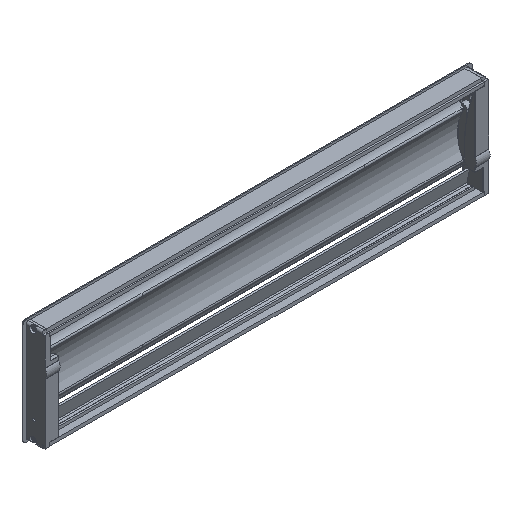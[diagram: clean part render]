
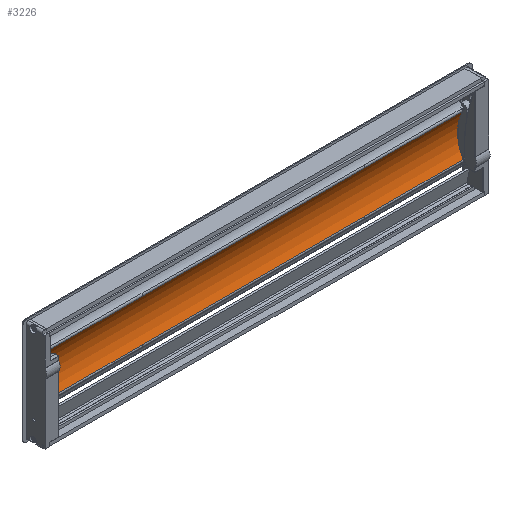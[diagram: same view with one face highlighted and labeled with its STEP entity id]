
A CAD part, isometric view. The second image highlights one B-rep face of the part: STEP entity #3226.
In plain terms, the highlighted cylindrical face has radius 53.988 mm (diameter 107.977 mm), a partial arc.
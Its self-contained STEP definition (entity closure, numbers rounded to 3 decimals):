
#49 = CARTESIAN_POINT ( 'NONE',  ( -89.5, -9.605, -428.397 ) ) ;
#110 = B_SPLINE_CURVE_WITH_KNOTS ( 'NONE', 3,
 ( #3165, #49, #808, #4010 ),
 .UNSPECIFIED., .F., .F.,
 ( 4, 4 ),
 ( 0.027, 0.498 ),
 .UNSPECIFIED. ) ;
#378 = CARTESIAN_POINT ( 'NONE',  ( -134., -55.605, -400.135 ) ) ;
#514 = CARTESIAN_POINT ( 'NONE',  ( 433., -9.764, -371.615 ) ) ;
#808 = CARTESIAN_POINT ( 'NONE',  ( -45., -9.605, -428.397 ) ) ;
#1022 = CARTESIAN_POINT ( 'NONE',  ( 299.5, -9.605, -428.397 ) ) ;
#1059 = CARTESIAN_POINT ( 'NONE',  ( 385.128, -9.605, -428.397 ) ) ;
#1107 = EDGE_CURVE ( 'NONE', #3724, #4533, #5914, .T. ) ;
#1110 = AXIS2_PLACEMENT_3D ( 'NONE', #378, #3491, #7576 ) ;
#1156 = EDGE_CURVE ( 'NONE', #5618, #10448, #7600, .T. ) ;
#1345 = ORIENTED_EDGE ( 'NONE', *, *, #6781, .T. ) ;
#1486 = CARTESIAN_POINT ( 'NONE',  ( -0.5, -9.764, -371.615 ) ) ;
#1562 = VERTEX_POINT ( 'NONE', #1637 ) ;
#1637 = CARTESIAN_POINT ( 'NONE',  ( -134., -9.605, -428.397 ) ) ;
#1834 = CARTESIAN_POINT ( 'NONE',  ( 433., -9.605, -428.397 ) ) ;
#2275 = VERTEX_POINT ( 'NONE', #4834 ) ;
#2358 = CARTESIAN_POINT ( 'NONE',  ( 388.5, -9.764, -371.615 ) ) ;
#2476 = CIRCLE ( 'NONE', #1110, 53.988 ) ;
#2544 = FACE_OUTER_BOUND ( 'NONE', #7120, .T. ) ;
#2606 = DIRECTION ( 'NONE',  ( 1., 0., 0. ) ) ;
#2639 = CYLINDRICAL_SURFACE ( 'NONE', #3145, 53.988 ) ;
#2948 = CIRCLE ( 'NONE', #6685, 53.988 ) ;
#2988 = CARTESIAN_POINT ( 'NONE',  ( -134., -9.764, -371.615 ) ) ;
#3145 = AXIS2_PLACEMENT_3D ( 'NONE', #3285, #4133, #10507 ) ;
#3165 = CARTESIAN_POINT ( 'NONE',  ( -134., -9.605, -428.397 ) ) ;
#3226 = ADVANCED_FACE ( 'NONE', ( #2544 ), #2639, .F. ) ;
#3285 = CARTESIAN_POINT ( 'NONE',  ( 141.5, -55.605, -400.135 ) ) ;
#3491 = DIRECTION ( 'NONE',  ( -1., 0., 0. ) ) ;
#3724 = VERTEX_POINT ( 'NONE', #8032 ) ;
#3780 = DIRECTION ( 'NONE',  ( -1., 0., 0. ) ) ;
#3837 = EDGE_CURVE ( 'NONE', #3724, #6235, #4284, .T. ) ;
#3883 = ORIENTED_EDGE ( 'NONE', *, *, #7998, .T. ) ;
#4002 = CARTESIAN_POINT ( 'NONE',  ( -0.5, -9.764, -371.615 ) ) ;
#4010 = CARTESIAN_POINT ( 'NONE',  ( -0.5, -9.605, -428.397 ) ) ;
#4062 = EDGE_CURVE ( 'NONE', #6169, #2275, #4749, .T. ) ;
#4133 = DIRECTION ( 'NONE',  ( -1., 0., 0. ) ) ;
#4284 = B_SPLINE_CURVE_WITH_KNOTS ( 'NONE', 3,
 ( #1022, #5279, #6816, #1834 ),
 .UNSPECIFIED., .F., .F.,
 ( 4, 4 ),
 ( 0.502, 0.973 ),
 .UNSPECIFIED. ) ;
#4379 = CARTESIAN_POINT ( 'NONE',  ( -0.5, -9.605, -428.397 ) ) ;
#4533 = VERTEX_POINT ( 'NONE', #4379 ) ;
#4749 = B_SPLINE_CURVE_WITH_KNOTS ( 'NONE', 3,
 ( #4998, #2358, #4841, #7394 ),
 .UNSPECIFIED., .F., .F.,
 ( 4, 4 ),
 ( 0.027, 0.498 ),
 .UNSPECIFIED. ) ;
#4834 = CARTESIAN_POINT ( 'NONE',  ( 299.5, -9.764, -371.615 ) ) ;
#4841 = CARTESIAN_POINT ( 'NONE',  ( 344., -9.764, -371.615 ) ) ;
#4998 = CARTESIAN_POINT ( 'NONE',  ( 433., -9.764, -371.615 ) ) ;
#5279 = CARTESIAN_POINT ( 'NONE',  ( 344., -9.605, -428.397 ) ) ;
#5591 = ORIENTED_EDGE ( 'NONE', *, *, #1107, .F. ) ;
#5618 = VERTEX_POINT ( 'NONE', #4002 ) ;
#5792 = EDGE_CURVE ( 'NONE', #2275, #5618, #7962, .T. ) ;
#5914 = LINE ( 'NONE', #1059, #9283 ) ;
#6169 = VERTEX_POINT ( 'NONE', #514 ) ;
#6235 = VERTEX_POINT ( 'NONE', #7063 ) ;
#6685 = AXIS2_PLACEMENT_3D ( 'NONE', #9881, #2606, #10477 ) ;
#6781 = EDGE_CURVE ( 'NONE', #6235, #6169, #2948, .T. ) ;
#6816 = CARTESIAN_POINT ( 'NONE',  ( 388.5, -9.605, -428.397 ) ) ;
#7059 = VECTOR ( 'NONE', #3780, 1000. ) ;
#7063 = CARTESIAN_POINT ( 'NONE',  ( 433., -9.605, -428.397 ) ) ;
#7120 = EDGE_LOOP ( 'NONE', ( #3883, #5591, #7152, #1345, #8597, #9810, #8681, #7296 ) ) ;
#7152 = ORIENTED_EDGE ( 'NONE', *, *, #3837, .T. ) ;
#7296 = ORIENTED_EDGE ( 'NONE', *, *, #8934, .T. ) ;
#7394 = CARTESIAN_POINT ( 'NONE',  ( 299.5, -9.764, -371.615 ) ) ;
#7576 = DIRECTION ( 'NONE',  ( 0., -0.003, 1. ) ) ;
#7600 = B_SPLINE_CURVE_WITH_KNOTS ( 'NONE', 3,
 ( #1486, #10412, #10368, #2988 ),
 .UNSPECIFIED., .F., .F.,
 ( 4, 4 ),
 ( 0.502, 0.973 ),
 .UNSPECIFIED. ) ;
#7897 = CARTESIAN_POINT ( 'NONE',  ( -134., -9.764, -371.615 ) ) ;
#7962 = LINE ( 'NONE', #10254, #7059 ) ;
#7998 = EDGE_CURVE ( 'NONE', #1562, #4533, #110, .T. ) ;
#8032 = CARTESIAN_POINT ( 'NONE',  ( 299.5, -9.605, -428.397 ) ) ;
#8597 = ORIENTED_EDGE ( 'NONE', *, *, #4062, .T. ) ;
#8681 = ORIENTED_EDGE ( 'NONE', *, *, #1156, .T. ) ;
#8934 = EDGE_CURVE ( 'NONE', #10448, #1562, #2476, .T. ) ;
#9283 = VECTOR ( 'NONE', #9295, 1000. ) ;
#9295 = DIRECTION ( 'NONE',  ( -1., 0., 0. ) ) ;
#9810 = ORIENTED_EDGE ( 'NONE', *, *, #5792, .T. ) ;
#9881 = CARTESIAN_POINT ( 'NONE',  ( 433., -55.605, -400.135 ) ) ;
#10254 = CARTESIAN_POINT ( 'NONE',  ( 385.128, -9.764, -371.615 ) ) ;
#10368 = CARTESIAN_POINT ( 'NONE',  ( -89.5, -9.764, -371.615 ) ) ;
#10412 = CARTESIAN_POINT ( 'NONE',  ( -45., -9.764, -371.615 ) ) ;
#10448 = VERTEX_POINT ( 'NONE', #7897 ) ;
#10477 = DIRECTION ( 'NONE',  ( 0., 0.003, -1. ) ) ;
#10507 = DIRECTION ( 'NONE',  ( 0., 0.003, -1. ) ) ;
